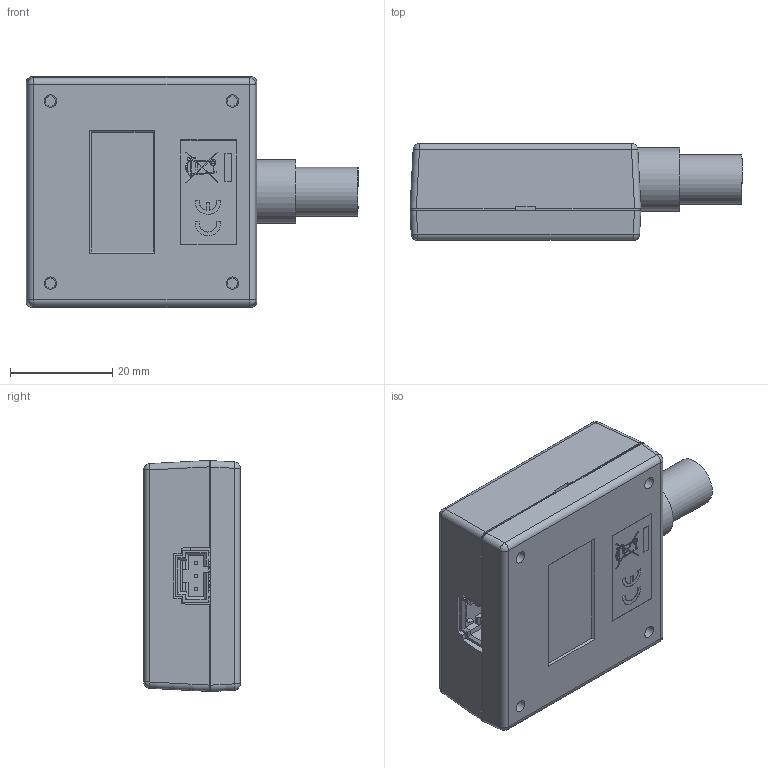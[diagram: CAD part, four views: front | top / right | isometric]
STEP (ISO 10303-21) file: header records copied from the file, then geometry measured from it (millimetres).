
FILE_DESCRIPTION(/* description */ ('Alibre Inc.'),/* implementation_level */ '2;1');
FILE_NAME(/* name */ 'export0',/* time_stamp */ '2018-08-10T13:11:46-06:00',/* author */ (''),/* organization */ (''),/* preprocessor_version */ 'ST-DEVELOPER v17',/* originating_system */ 'Alibre',/* authorisation */ '');
FILE_SCHEMA (('CONFIG_CONTROL_DESIGN'));
Length unit declared in the file: centimetre
Products named in the file (119): ID_1; ID_2; ID_3; ID_4; ID_5; ID_6; ID_7; ID_8; ID_9; ID_10; ID_11; ID_12; ID_13; ID_14; ID_15; ID_16; ID_17; ID_18; ID_19; ID_20; ID_21; ID_22; ID_23; ID_24; ID_25; ID_26; ID_27; ID_28; ID_29; ID_30; ID_31; ID_32; ID_33
Bounding box: 64.84 x 18.85 x 45.12 mm (x, y, z)
Volume: 18960.2 mm3; surface area: 22362.5 mm2
Topology: 135 solids, 135 shells, 2118 faces, 5328 edges, 3477 vertices
Faces by surface type: plane 1655, cylinder 382, bspline 61, cone 12, sphere 8
Full cylindrical faces by diameter (mm): 0.6 x1, 0.889 x2, 0.965 x3, 1 x2, 1.067 x2, 1.981 x2, 3.099 x4, 3.175 x4, 9.601 x1, 12.395 x1
Entity records: 54904 total; most frequent: CARTESIAN_POINT 10174, ORIENTED_EDGE 6704, DIRECTION 5525, EDGE_CURVE 3352, VECTOR 2647, LINE 2647, VERTEX_POINT 2205, AXIS2_PLACEMENT_3D 1887
